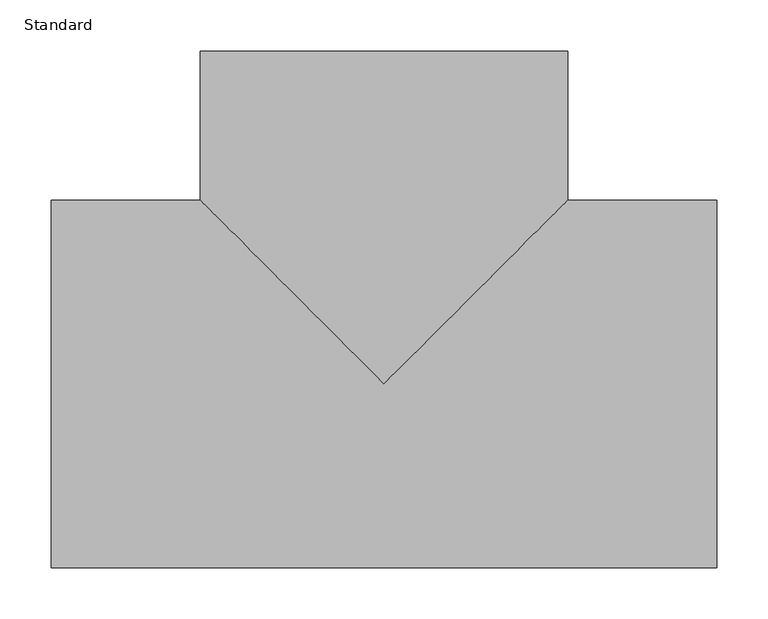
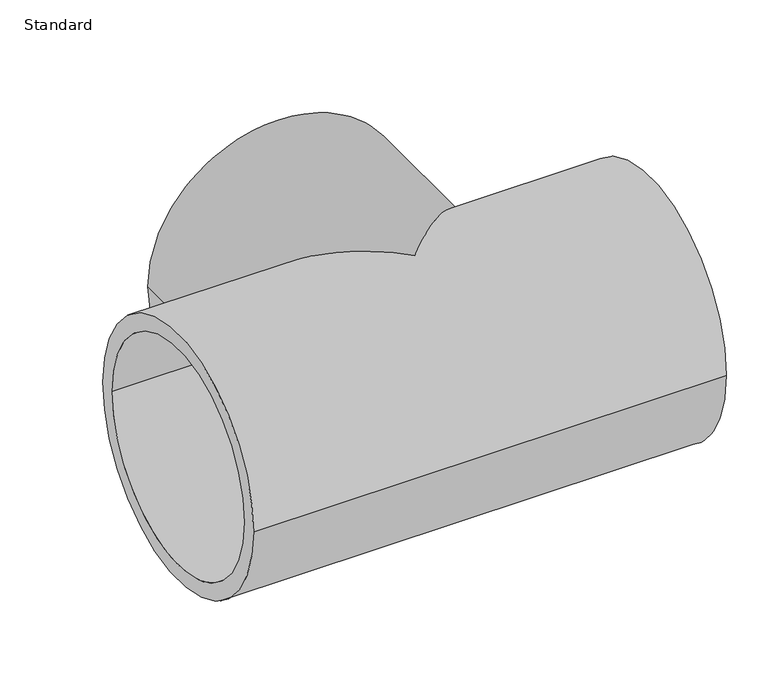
"""IFC4 building model written with IfcOpenShell, lengths in millimetres: pipe fitting geometry, Durapipe_PipeFitting_PVC_Tee90degEqual : Standard."""

from ifc_helpers import new_model, si_unit, frame, origin, place, context, project, spatial, polyline, circle_curve, ellipse_curve, source, transform, mapped, element, save
from ifc_brep_helpers import plane_surface, cylinder_surface, revolved_surface, advanced_brep


def standard_0db77153(model_context):
    return source(origin(), model_context, "Body", "AdvancedBrep", [
        advanced_brep(
        [(-180.0, 326.0, 0.0), (180.0, 326.0, 0.0), (-157.5, 326.0, 0.0), (157.5, 326.0, 0.0), (-180.0, 180.0, 0.0), (0.0, 0.0, 180.0), (180.0, 180.0, 0.0), (0.0, 0.0, -180.0), (-326.0, -180.0, 0.0), (-326.0, 180.0, 0.0), (-326.0, -157.5, 0.0), (-326.0, 157.5, 0.0), (326.0, -180.0, 0.0), (326.0, 180.0, 0.0), (326.0, 157.5, 0.0), (326.0, -157.5, 0.0), (157.5, 162.0, 0.0), (-157.5, 162.0, 0.0), (0.0, 162.0, 0.0), (162.0, -157.5, 0.0), (162.0, 157.5, 0.0), (162.0, 0.0, 0.0), (-162.0, -157.5, 0.0), (-162.0, 157.5, 0.0), (-162.0, 0.0, 0.0)],
        [
            (0, 1, circle_curve(frame((0.0, 326.0, 0.0), z_axis=(0.0, 1.0, 0.0), x_axis=(1.0, 0.0, 0.0)), 180.0)),
            (1, 0, circle_curve(frame((0.0, 326.0, 0.0), z_axis=(0.0, 1.0, 0.0), x_axis=(1.0, 0.0, 0.0)), 180.0)),
            (2, 3, circle_curve(frame((0.0, 326.0, 0.0), z_axis=(0.0, -1.0, 0.0), x_axis=(-1.0, 0.0, 0.0)), 157.5)),
            (3, 2, circle_curve(frame((0.0, 326.0, 0.0), z_axis=(0.0, -1.0, 0.0), x_axis=(-1.0, 0.0, 0.0)), 157.5)),
            (0, 4),
            (4, 5, ellipse_curve(frame((0.0, 0.0, 0.0), z_axis=(0.7071067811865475, 0.7071067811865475, 0.0), x_axis=(-0.7071067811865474, 0.7071067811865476, 0.0)), 254.5584412, 180.0)),
            (5, 6, ellipse_curve(frame((0.0, 0.0, 0.0), z_axis=(-0.7071067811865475, 0.7071067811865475, 0.0), x_axis=(0.7071067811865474, 0.7071067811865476, 0.0)), 254.5584412, 180.0)),
            (6, 1),
            (6, 7, ellipse_curve(frame((0.0, 0.0, 0.0), z_axis=(-0.7071067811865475, 0.7071067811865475, 0.0), x_axis=(0.7071067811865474, 0.7071067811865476, 0.0)), 254.5584412, 180.0)),
            (7, 4, ellipse_curve(frame((0.0, 0.0, 0.0), z_axis=(0.7071067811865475, 0.7071067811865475, 0.0), x_axis=(-0.7071067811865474, 0.7071067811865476, 0.0)), 254.5584412, 180.0)),
            (8, 9, circle_curve(frame((-326.0, 0.0, 0.0), z_axis=(-1.0, 0.0, 0.0), x_axis=(0.0, 1.0, 0.0)), 180.0)),
            (9, 8, circle_curve(frame((-326.0, 0.0, 0.0), z_axis=(-1.0, 0.0, 0.0), x_axis=(0.0, 1.0, 0.0)), 180.0)),
            (10, 11, circle_curve(frame((-326.0, 0.0, 0.0), z_axis=(1.0, 0.0, 0.0), x_axis=(0.0, 1.0, 0.0)), 157.5)),
            (11, 10, circle_curve(frame((-326.0, 0.0, 0.0), z_axis=(1.0, 0.0, 0.0), x_axis=(0.0, 1.0, 0.0)), 157.5)),
            (12, 13, circle_curve(frame((326.0, 0.0, 0.0), z_axis=(1.0, 0.0, 0.0), x_axis=(0.0, 1.0, 0.0)), 180.0)),
            (13, 12, circle_curve(frame((326.0, 0.0, 0.0), z_axis=(1.0, 0.0, 0.0), x_axis=(0.0, 1.0, 0.0)), 180.0)),
            (14, 15, circle_curve(frame((326.0, 0.0, 0.0), z_axis=(-1.0, 0.0, 0.0), x_axis=(0.0, 1.0, 0.0)), 157.5)),
            (15, 14, circle_curve(frame((326.0, 0.0, 0.0), z_axis=(-1.0, 0.0, 0.0), x_axis=(0.0, 1.0, 0.0)), 157.5)),
            (8, 12),
            (13, 6),
            (4, 9),
            (16, 3),
            (2, 17),
            (17, 16, circle_curve(frame((0.0, 162.0, 0.0), z_axis=(0.0, -1.0, 0.0), x_axis=(-1.0, 0.0, 0.0)), 157.5)),
            (16, 17, circle_curve(frame((0.0, 162.0, 0.0), z_axis=(0.0, -1.0, 0.0), x_axis=(-1.0, 0.0, 0.0)), 157.5)),
            (17, 18),
            (18, 16),
            (19, 15),
            (14, 20),
            (20, 19, circle_curve(frame((162.0, 0.0, 0.0), z_axis=(-1.0, 0.0, 0.0), x_axis=(0.0, 1.0, 0.0)), 157.5)),
            (19, 20, circle_curve(frame((162.0, 0.0, 0.0), z_axis=(-1.0, 0.0, 0.0), x_axis=(0.0, 1.0, 0.0)), 157.5)),
            (20, 21),
            (21, 19),
            (10, 22),
            (22, 23, circle_curve(frame((-162.0, 0.0, 0.0), z_axis=(1.0, 0.0, 0.0), x_axis=(0.0, 1.0, 0.0)), 157.5)),
            (23, 11),
            (23, 22, circle_curve(frame((-162.0, 0.0, 0.0), z_axis=(1.0, 0.0, 0.0), x_axis=(0.0, 1.0, 0.0)), 157.5)),
            (22, 24),
            (24, 23),
        ],
        [
            plane_surface(frame((0.0, 326.0, 0.0), z_axis=(0.0, 1.0, 0.0), x_axis=(0.0, 0.0, 1.0))),
            cylinder_surface(frame((0.0, 326.0, 0.0), z_axis=(0.0, 1.0, 0.0), x_axis=(1.0, 0.0, 0.0)), 180.0),
            plane_surface(frame((-326.0, 0.0, 0.0), z_axis=(-1.0, 0.0, 0.0), x_axis=(0.0, 0.0, 1.0))),
            plane_surface(frame((326.0, 0.0, 0.0), z_axis=(1.0, 0.0, 0.0), x_axis=(0.0, 0.0, 1.0))),
            cylinder_surface(frame((-326.0, 0.0, 0.0), z_axis=(-1.0, 0.0, 0.0), x_axis=(0.0, 1.0, 0.0)), 180.0),
            revolved_surface(polyline([(-157.5, 162.0, 0.0), (-157.5, 326.0, 0.0)]), (0.0, 2301.0, 0.0), (0.0, -1.0, 0.0)),
            plane_surface(frame((0.0, 162.0, 0.0), z_axis=(0.0, 1.0, 0.0), x_axis=(-1.0, 0.0, 0.0))),
            revolved_surface(polyline([(162.0, 157.5, 0.0), (326.0, 157.5, 0.0)]), (2302.5, 0.0, 0.0), (-1.0, 0.0, 0.0)),
            plane_surface(frame((162.0, 0.0, 0.0), z_axis=(1.0, 0.0, 0.0), x_axis=(0.0, 1.0, 0.0))),
            revolved_surface(polyline([(-326.0, 157.5, 0.0), (-162.0, 157.5, 0.0)]), (2302.5, 0.0, 0.0), (-1.0, 0.0, 0.0)),
            plane_surface(frame((-162.0, 0.0, 0.0), z_axis=(-1.0, 0.0, 0.0), x_axis=(0.0, 1.0, 0.0))),
        ],
        [
            (0, [[1, 2], [3, 4]]),
            (1, [[-1, 5, 6, 7, 8]]),
            (1, [[-2, -8, 9, 10, -5]]),
            (2, [[11, 12], [13, 14]]),
            (3, [[15, 16], [17, 18]]),
            (4, [[-11, 19, -16, 20, -7, -6, 21]]),
            (4, [[-12, -21, -10, -9, -20, -15, -19]]),
            (5, [[22, -3, 23, 24]]),
            (5, [[-22, 25, -23, -4]]),
            (6, [[-24, 26, 27]]),
            (6, [[-25, -27, -26]]),
            (7, [[28, -17, 29, 30]]),
            (7, [[-28, 31, -29, -18]]),
            (8, [[-30, 32, 33]]),
            (8, [[-31, -33, -32]]),
            (9, [[34, 35, 36, -13]]),
            (9, [[-34, -14, -36, 37]]),
            (10, [[-35, 38, 39]]),
            (10, [[-37, -39, -38]]),
        ],
    ),
    ])


if __name__ == "__main__":
    model = new_model("IFC4")
    model_context = context("Model", 3, world=origin())
    ifc_project = project(units=[si_unit("LENGTHUNIT", "METRE", prefix="MILLI")], contexts=[model_context])
    site = spatial("IfcSite", under=ifc_project)
    building = spatial("IfcBuilding", under=site)
    placement = place(None, origin())
    standard_shape = standard_0db77153(model_context)
    element("IfcPipeFitting", 1, ObjectType="Durapipe_PipeFitting_PVC_Tee90degEqual : Standard", at=placement, inside=building, context=model_context, shape_type="MappedRepresentation", body=[
        mapped(standard_shape, transform((0.0, 0.0, 0.0), x_axis=(1.0, 0.0, 0.0), y_axis=(0.0, 1.0, 0.0), z_axis=(0.0, 0.0, 1.0))),
    ])
    save(model, "model.ifc")
